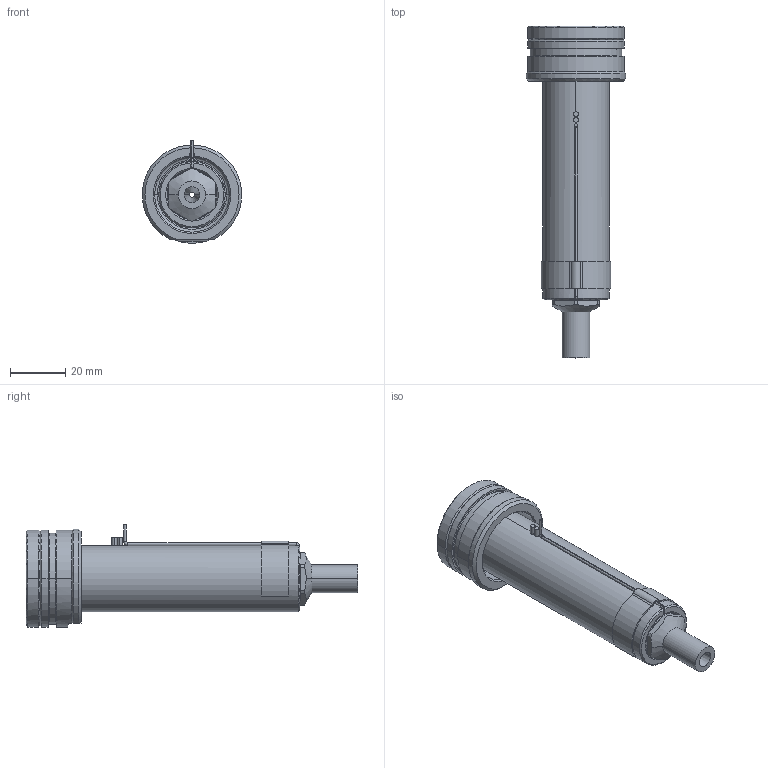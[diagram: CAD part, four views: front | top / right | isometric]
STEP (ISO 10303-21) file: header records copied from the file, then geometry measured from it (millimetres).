
FILE_DESCRIPTION((''),'2;1');
FILE_NAME('EO06_SG_ESG_090_SW','2024-02-19T12:18:18',('sundharh'),(''),'CREO PARAMETRIC BY PTC INC, 2023154','CREO PARAMETRIC BY PTC INC, 2023154','');
FILE_SCHEMA(('CONFIG_CONTROL_DESIGN'));
Length unit declared in the file: millimetre
Products named in the file (1): EO06_SG_ESG_090_SW
Bounding box: 35.93 x 120 x 37 mm (x, y, z)
Volume: 52222.9 mm3; surface area: 15909.4 mm2
Topology: 2 solids, 2 shells, 168 faces, 429 edges, 259 vertices
Faces by surface type: cylinder 68, plane 40, cone 30, torus 21, bspline 6, sphere 3
Entity records: 5743 total; most frequent: CARTESIAN_POINT 1641, DIRECTION 900, ORIENTED_EDGE 838, EDGE_CURVE 419, AXIS2_PLACEMENT_3D 375, VERTEX_POINT 259, CIRCLE 213, EDGE_LOOP 182
